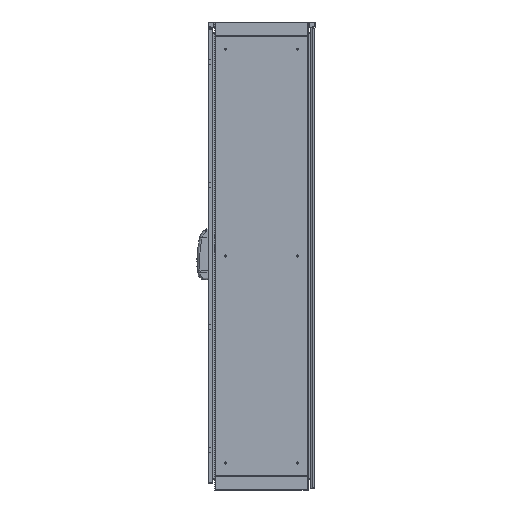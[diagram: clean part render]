
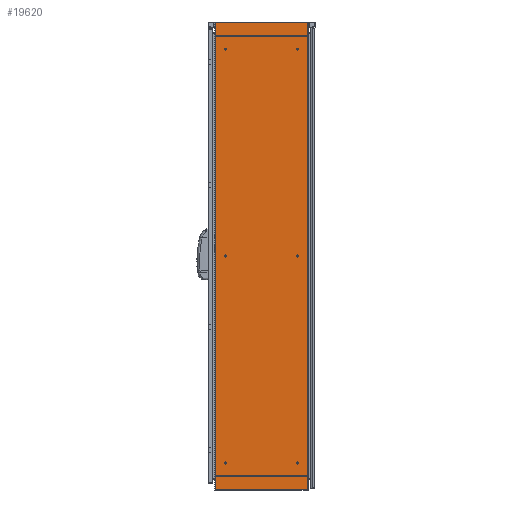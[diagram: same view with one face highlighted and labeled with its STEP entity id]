
A CAD part, left-side view. The second image highlights one B-rep face of the part: STEP entity #19620.
In plain terms, the highlighted planar face has unit normal (-1, 0, 0).
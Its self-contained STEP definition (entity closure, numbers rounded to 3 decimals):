
#3496 = DIRECTION ( 'NONE',  ( 0., 0., 1. ) ) ;
#5302 = LINE ( 'NONE', #59563, #7256 ) ;
#5352 = DIRECTION ( 'NONE',  ( 0., 0., -1. ) ) ;
#5987 = ORIENTED_EDGE ( 'NONE', *, *, #10959, .T. ) ;
#7256 = VECTOR ( 'NONE', #23015, 1000. ) ;
#10959 = EDGE_CURVE ( 'NONE', #73991, #17300, #27504, .T. ) ;
#12393 = CARTESIAN_POINT ( 'NONE',  ( -400., 179.43, 1809. ) ) ;
#14516 = EDGE_CURVE ( 'NONE', #55677, #73991, #5302, .T. ) ;
#17300 = VERTEX_POINT ( 'NONE', #30061 ) ;
#17681 = CARTESIAN_POINT ( 'NONE',  ( -400., 183.5, 1809. ) ) ;
#19620 = ADVANCED_FACE ( 'NONE', ( #47539 ), #71529, .F. ) ;
#20069 = ORIENTED_EDGE ( 'NONE', *, *, #43988, .T. ) ;
#22395 = DIRECTION ( 'NONE',  ( 0., 0., -1. ) ) ;
#22443 = CARTESIAN_POINT ( 'NONE',  ( -400., -179.43, 0. ) ) ;
#23015 = DIRECTION ( 'NONE',  ( 0., -1., 0. ) ) ;
#26078 = AXIS2_PLACEMENT_3D ( 'NONE', #17681, #41674, #22395 ) ;
#26346 = VECTOR ( 'NONE', #71014, 1000. ) ;
#27504 = LINE ( 'NONE', #57020, #41201 ) ;
#30061 = CARTESIAN_POINT ( 'NONE',  ( -400., -179.43, 1809. ) ) ;
#31200 = EDGE_LOOP ( 'NONE', ( #57093, #5987, #61938, #20069 ) ) ;
#36926 = CARTESIAN_POINT ( 'NONE',  ( -400., 179.43, 0. ) ) ;
#37590 = EDGE_CURVE ( 'NONE', #55265, #17300, #62903, .T. ) ;
#37887 = CARTESIAN_POINT ( 'NONE',  ( -400., 179.43, 1809. ) ) ;
#41201 = VECTOR ( 'NONE', #3496, 1000. ) ;
#41674 = DIRECTION ( 'NONE',  ( 1., 0., 0. ) ) ;
#42537 = VECTOR ( 'NONE', #5352, 1000. ) ;
#43988 = EDGE_CURVE ( 'NONE', #55265, #55677, #77255, .T. ) ;
#47539 = FACE_OUTER_BOUND ( 'NONE', #31200, .T. ) ;
#55265 = VERTEX_POINT ( 'NONE', #37887 ) ;
#55677 = VERTEX_POINT ( 'NONE', #36926 ) ;
#57020 = CARTESIAN_POINT ( 'NONE',  ( -400., -179.43, 1809. ) ) ;
#57093 = ORIENTED_EDGE ( 'NONE', *, *, #14516, .T. ) ;
#59563 = CARTESIAN_POINT ( 'NONE',  ( -400., 183.5, 0. ) ) ;
#61938 = ORIENTED_EDGE ( 'NONE', *, *, #37590, .F. ) ;
#62903 = LINE ( 'NONE', #77280, #26346 ) ;
#71014 = DIRECTION ( 'NONE',  ( 0., -1., 0. ) ) ;
#71529 = PLANE ( 'NONE',  #26078 ) ;
#73991 = VERTEX_POINT ( 'NONE', #22443 ) ;
#77255 = LINE ( 'NONE', #12393, #42537 ) ;
#77280 = CARTESIAN_POINT ( 'NONE',  ( -400., 183.5, 1809. ) ) ;
